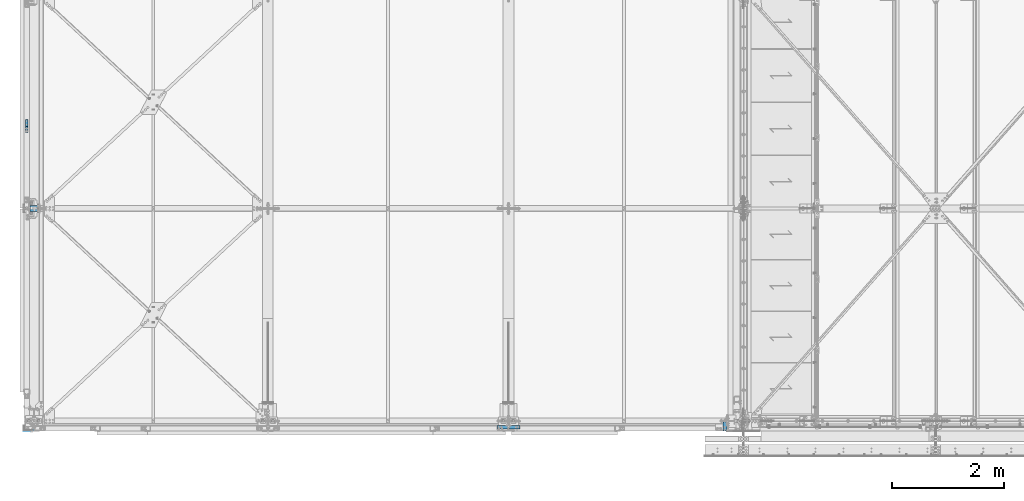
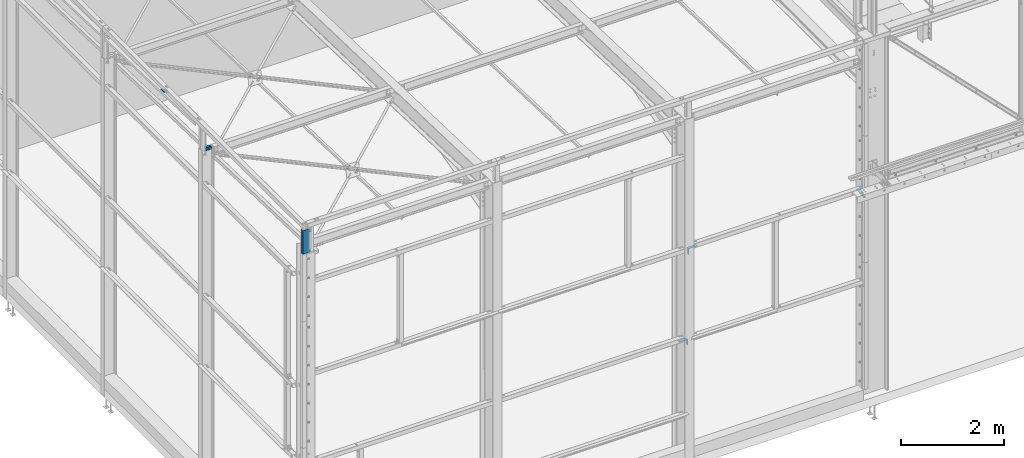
# One storey, part 352 of 362: 7 beams, 7 elements without a shape of their own.
"""IFC2X3 building model written with IfcOpenShell, lengths in millimetres."""

from ifc_helpers import new_model, si_unit, frame, origin_with_axes, place, context, subcontext, project, spatial, faceted_brep, material, type_object, element, aggregate, save


model = new_model("IFC2X3")

# Units and contexts
model_context = context("Model", 3, precision=1e-05, world=origin_with_axes())
body_context = subcontext(model_context, "Body", "Model", "MODEL_VIEW")
ifc_project = project(units=[si_unit("LENGTHUNIT", "METRE", prefix="MILLI"), si_unit("AREAUNIT", "SQUARE_METRE"), si_unit("VOLUMEUNIT", "CUBIC_METRE"), si_unit("MASSUNIT", "GRAM", prefix="KILO"), si_unit("TIMEUNIT", "SECOND"), si_unit("PLANEANGLEUNIT", "RADIAN"), si_unit("SOLIDANGLEUNIT", "STERADIAN"), si_unit("THERMODYNAMICTEMPERATUREUNIT", "DEGREE_CELSIUS"), si_unit("LUMINOUSINTENSITYUNIT", "LUMEN")], contexts=[model_context])

# Site, building, storey
site_placement = place(None, origin_with_axes())
site = spatial("IfcSite", under=ifc_project, at=site_placement, Name="Undefined", CompositionType="ELEMENT")
building_placement = place(site_placement, origin_with_axes())
building = spatial("IfcBuilding", under=site, at=building_placement, Name="Undefined", CompositionType="ELEMENT")
storey_placement = place(building_placement, origin_with_axes())
storey = spatial("IfcBuildingStorey", under=building, at=storey_placement, Name="Undefined", CompositionType="ELEMENT", Elevation=0.0)

# Assembly, beam
assembly_1_placement = place(storey_placement, origin_with_axes())
assembly_1 = element("IfcElementAssembly", 1, at=assembly_1_placement, inside=storey, AssemblyPlace="NOTDEFINED", PredefinedType="NOTDEFINED")
ifc_material = material(Name="Undefined/S235-E24")
beam_type_1 = type_object("IfcBeamType", Name="PL60*10", PredefinedType="NOTDEFINED")
beam_1_placement = place(assembly_1_placement, frame((8469.99999790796, -110.000005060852, 2660.0), z_axis=(0.0, -1.0, 0.0), x_axis=(0.0, 0.0, 1.0)))
beam_1 = element("IfcBeam", 2, at=beam_1_placement, type_object=beam_type_1, material=ifc_material, Name="ATTACHE", ObjectType="PL60*10", context=body_context, shape_type="Brep", body=[
    faceted_brep([(0.0, -5.0, -30.0), (0.0, -5.0, 30.0), (0.0, 5.0, 30.0), (0.0, 5.0, -30.0), (130.0, 5.0, 30.0), (130.0, 5.0, -30.0), (140.0, -5.0, -30.0), (140.0, -5.0, 30.0), (130.0, 195.0, 30.0), (130.0, 195.0, -30.0), (140.0, 195.0, 30.0), (140.0, 195.0, -30.0)], [[[0, 1, 2, 3]], [[3, 2, 4, 5]], [[1, 0, 6, 7]], [[5, 4, 8, 9]], [[4, 2, 1, 7, 10, 8]], [[7, 6, 11, 10]], [[6, 0, 3, 5, 9, 11]], [[10, 11, 9, 8]]]),
])
aggregate(assembly_1, [beam_1])

assembly_2_placement = place(storey_placement, origin_with_axes())
assembly_2 = element("IfcElementAssembly", 3, at=assembly_2_placement, inside=storey, AssemblyPlace="NOTDEFINED", PredefinedType="NOTDEFINED")
beam_2_placement = place(assembly_2_placement, frame((8489.99999778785, -110.00000588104, 4800.0), z_axis=(0.0, -1.0, 0.0), x_axis=(0.0, 0.0, 1.0)))
beam_2 = element("IfcBeam", 4, at=beam_2_placement, type_object=beam_type_1, material=ifc_material, Name="ATTACHE", ObjectType="PL60*10", context=body_context, shape_type="Brep", body=[
    faceted_brep([(0.0, -5.0, -30.0), (0.0, -5.0, 30.0), (0.0, 5.0, 30.0), (0.0, 5.0, -30.0), (140.0, 5.0, 30.0), (140.0, 5.0, -30.0), (130.0, -5.0, -30.0), (130.0, -5.0, 30.0), (140.0, -195.0, 30.0), (140.0, -195.0, -30.0), (130.0, -195.0, 30.0), (130.0, -195.0, -30.0)], [[[0, 1, 2, 3]], [[3, 2, 4, 5]], [[1, 0, 6, 7]], [[5, 4, 8, 9]], [[4, 2, 1, 7, 10, 8]], [[7, 6, 11, 10]], [[6, 0, 3, 5, 9, 11]], [[10, 11, 9, 8]]]),
])
aggregate(assembly_2, [beam_2])

assembly_3_placement = place(storey_placement, origin_with_axes())
assembly_3 = element("IfcElementAssembly", 5, at=assembly_3_placement, inside=storey, AssemblyPlace="NOTDEFINED", PredefinedType="NOTDEFINED")
beam_type_2 = type_object("IfcBeamType", Name="PL160*8", PredefinedType="NOTDEFINED")
beam_3_placement = place(assembly_3_placement, frame((12375.9960926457, -100.000000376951, 4829.99609804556), z_axis=(0.0, -1.0, 0.0), x_axis=(0.0, 0.0, 1.0)))
beam_3 = element("IfcBeam", 6, at=beam_3_placement, type_object=beam_type_2, material=ifc_material, Name="ATTACHE", ObjectType="PL160*8", context=body_context, shape_type="Brep", body=[
    faceted_brep([(0.0, -4.0, -80.0), (0.0, -4.0, 80.0), (0.0, 4.0, 80.0), (0.0, 4.0, -80.0), (102.0, 4.0, 80.0), (102.0, 4.0, -80.0), (110.0, -4.0, -80.0), (110.0, -4.0, 80.0), (102.0, 66.0, 80.0), (102.0, 66.0, -80.0), (110.0, 66.0, 80.0), (110.0, 66.0, -80.0)], [[[0, 1, 2, 3]], [[3, 2, 4, 5]], [[1, 0, 6, 7]], [[5, 4, 8, 9]], [[4, 2, 1, 7, 10, 8]], [[7, 6, 11, 10]], [[6, 0, 3, 5, 9, 11]], [[10, 11, 9, 8]]]),
])
aggregate(assembly_3, [beam_3])

assembly_4_placement = place(storey_placement, origin_with_axes())
assembly_4 = element("IfcElementAssembly", 7, at=assembly_4_placement, inside=storey, AssemblyPlace="NOTDEFINED", PredefinedType="NOTDEFINED")
beam_type_3 = type_object("IfcBeamType", Name="PL6*50", PredefinedType="NOTDEFINED")
beam_4_placement = place(assembly_4_placement, frame((-129.999999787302, 5155.38587692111, 8447.0), z_axis=(1.0, 0.0, 0.0), x_axis=(0.0, 1.0, 0.0)))
beam_4 = element("IfcBeam", 8, at=beam_4_placement, type_object=beam_type_3, material=ifc_material, Name="ATTACHE", ObjectType="PL6*50", context=body_context, shape_type="Brep", body=[
    faceted_brep([(-5.16229192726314e-09, -3.0, -25.0), (-5.16229192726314e-09, -3.0, 25.0), (5.16229192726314e-09, 3.0, 25.0), (5.16229192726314e-09, 3.0, -25.0), (109.999999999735, 2.99999999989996, 25.0), (109.999999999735, 2.99999999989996, -25.0), (103.99999999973, -3.00000000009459, -25.0), (103.99999999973, -3.00000000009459, 25.0), (109.999999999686, -51.1856165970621, 25.0), (109.999999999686, -51.1856165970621, -25.0), (103.999999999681, -57.0000000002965, -25.0), (103.999999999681, -57.0000000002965, 25.0), (234.124323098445, -55.086831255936, 25.0), (234.124323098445, -55.086831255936, -25.0), (233.935836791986, -61.0838699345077, 25.0), (233.935836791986, -61.0838699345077, -25.0)], [[[0, 1, 2, 3]], [[3, 2, 4, 5]], [[1, 0, 6, 7]], [[5, 4, 8, 9]], [[7, 6, 10, 11]], [[9, 8, 12, 13]], [[8, 4, 2, 1, 7, 11, 14, 12]], [[11, 10, 15, 14]], [[10, 6, 0, 3, 5, 9, 13, 15]], [[14, 15, 13, 12]]]),
])
aggregate(assembly_4, [beam_4])

assembly_5_placement = place(storey_placement, origin_with_axes())
assembly_5 = element("IfcElementAssembly", 9, at=assembly_5_placement, inside=storey, Name="SUPPORT", AssemblyPlace="NOTDEFINED", PredefinedType="NOTDEFINED")
beam_type_4 = type_object("IfcBeamType", Name="PL5*140", PredefinedType="NOTDEFINED")
beam_5_placement = place(assembly_5_placement, frame((-5.0, 3793.99999888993, 7860.47018185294), z_axis=(1.0, 0.0, 0.0), x_axis=(0.0, 0.0, 1.0)))
beam_5 = element("IfcBeam", 10, at=beam_5_placement, type_object=beam_type_4, material=ifc_material, Name="SUPPORT", ObjectType="PL5*140", context=body_context, shape_type="Brep", body=[
    faceted_brep([(0.0, -2.5, -70.0), (0.0, -2.5, 70.0), (0.0, 2.5, 70.0), (0.0, 2.5, -70.0), (65.3746499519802, 2.5, 70.0), (65.3746499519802, 2.5, -70.0), (70.2199859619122, -2.5, -70.0), (70.2199859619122, -2.5, 70.0), (66.7930022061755, 47.6323814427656, 70.0), (66.7930022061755, 47.6323814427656, -70.0), (71.7905349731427, 47.4753265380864, 70.0), (71.7905349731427, 47.4753265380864, -70.0)], [[[0, 1, 2, 3]], [[3, 2, 4, 5]], [[1, 0, 6, 7]], [[5, 4, 8, 9]], [[4, 2, 1, 7, 10, 8]], [[7, 6, 11, 10]], [[6, 0, 3, 5, 9, 11]], [[10, 11, 9, 8]]]),
])
aggregate(assembly_5, [beam_5])

assembly_6_placement = place(storey_placement, origin_with_axes())
assembly_6 = element("IfcElementAssembly", 11, at=assembly_6_placement, inside=storey, Name="SUPPORT", AssemblyPlace="NOTDEFINED", PredefinedType="NOTDEFINED")
beam_6_placement = place(assembly_6_placement, frame((-4.99999999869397, 3853.39679905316, 7926.40086645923), z_axis=(1.0, 0.0, 0.0), x_axis=(0.0, -0.999506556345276, 0.031410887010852)))
beam_6 = element("IfcBeam", 12, at=beam_6_placement, type_object=beam_type_4, material=ifc_material, Name="SUPPORT", ObjectType="PL5*140", context=body_context, shape_type="Brep", body=[
    faceted_brep([(0.0, -2.5, -70.0), (0.0, -2.5, 70.0), (0.0, 2.5, 70.0), (0.0, 2.5, -70.0), (44.8403979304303, 2.49999994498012, 70.0), (44.8403979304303, 2.49999994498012, -70.0), (49.9999988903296, -2.50000006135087, -70.0), (49.9999988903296, -2.50000006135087, 70.0), (42.8036965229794, 67.3084043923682, 70.0), (42.8036965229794, 67.3084043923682, -70.0), (47.8012292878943, 67.4654593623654, 70.0), (47.8012292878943, 67.4654593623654, -70.0)], [[[0, 1, 2, 3]], [[3, 2, 4, 5]], [[1, 0, 6, 7]], [[5, 4, 8, 9]], [[4, 2, 1, 7, 10, 8]], [[7, 6, 11, 10]], [[6, 0, 3, 5, 9, 11]], [[10, 11, 9, 8]]]),
])
aggregate(assembly_6, [beam_6])

assembly_7_placement = place(storey_placement, origin_with_axes())
assembly_7 = element("IfcElementAssembly", 13, at=assembly_7_placement, inside=storey, AssemblyPlace="NOTDEFINED", PredefinedType="NOTDEFINED")
beam_type_5 = type_object("IfcBeamType", Name="PL5*560", PredefinedType="NOTDEFINED")
beam_7_placement = place(assembly_7_placement, frame((-14.9998849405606, -173.500000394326, 8140.00301431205), z_axis=(0.0, 0.0, 1.0), x_axis=(-1.0, 0.0, 0.0)))
beam_7 = element("IfcBeam", 14, at=beam_7_placement, type_object=beam_type_5, material=ifc_material, Name="FEUILLURE", ObjectType="PL5*560", context=body_context, shape_type="Brep", body=[
    faceted_brep([(1.0368310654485e-09, -2.5, -280.0), (1.02742703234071e-09, -2.5, 280.0), (-1.03682751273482e-09, 2.5, 280.0), (-1.02742347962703e-09, 2.5, -280.0), (165.000030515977, 2.50000006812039, 280.000000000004), (165.000030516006, 2.50000006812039, -279.999999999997), (160.000030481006, -2.49999993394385, -279.999999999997), (160.000030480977, -2.49999993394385, 280.000000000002), (165.00002995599, -77.5000011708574, 280.000000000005), (165.00002995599, -77.5000011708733, -279.999999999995), (160.00002995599, -77.5000011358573, 280.000000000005), (160.00002995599, -77.5000011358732, -279.999999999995)], [[[0, 1, 2, 3]], [[3, 2, 4, 5]], [[1, 0, 6, 7]], [[5, 4, 8, 9]], [[4, 2, 1, 7, 10, 8]], [[7, 6, 11, 10]], [[6, 0, 3, 5, 9, 11]], [[10, 11, 9, 8]]]),
])
aggregate(assembly_7, [beam_7])

save(model, "model.ifc")
